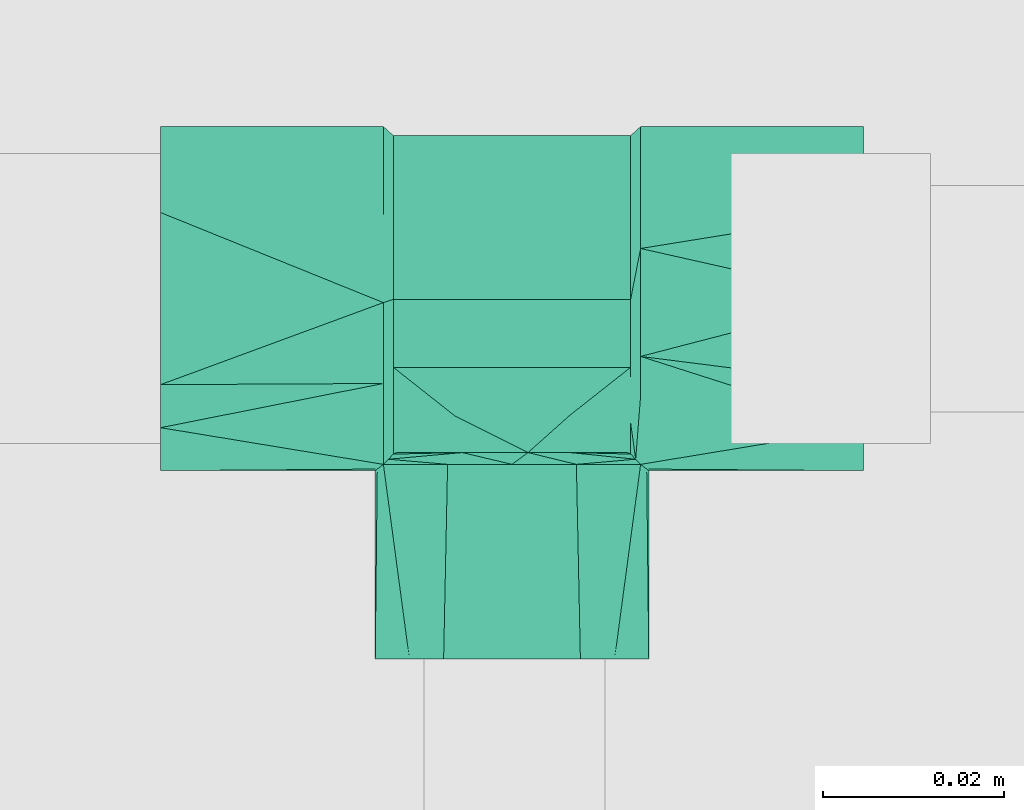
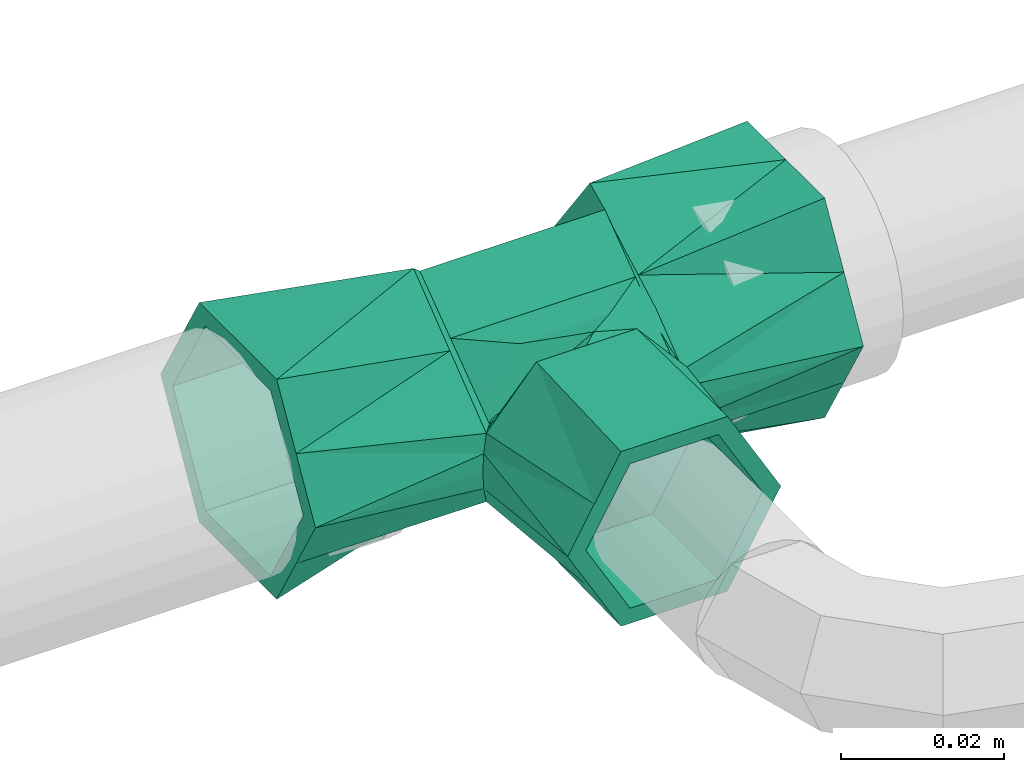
# One storey, part 116 of 166: 1 flow fitting.
"""IFC2X3 building model written with IfcOpenShell, lengths in metres."""

from ifc_helpers import new_model, entity, si_unit, converted_unit, direction, frame, origin, place, context, subcontext, project, spatial, faceted_brep, source, transform, mapped, material, type_object, type_shapes, element, save


model = new_model("IFC2X3")

# Units and contexts
model_context = context("Model", 3, precision=1e-05, world=origin(), true_north=direction((6.123233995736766e-17, 1.0)))
body_context = subcontext(model_context, "Body", "Model", "MODEL_VIEW")
ifc_project = project(units=[si_unit("LENGTHUNIT", "METRE"), converted_unit("PLANEANGLEUNIT", "DEGREE", entity("IfcPlaneAngleMeasure", 0.017453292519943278), si_unit("PLANEANGLEUNIT", "RADIAN"), dimensions=[0, 0, 0, 0, 0, 0, 0]), si_unit("AREAUNIT", "SQUARE_METRE")], contexts=[model_context])

# Site, building, storey
site_placement = place(None, origin())
site = spatial("IfcSite", under=ifc_project, at=site_placement, Name="Default", CompositionType="ELEMENT")
building_placement = place(site_placement, origin())
building = spatial("IfcBuilding", under=site, at=building_placement, Name="CASA DE ACOLHIDA PARA IDOSOS", CompositionType="ELEMENT")
storey_placement = place(building_placement, frame((0.0, 0.0, -1.7499999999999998)))
storey = spatial("IfcBuildingStorey", under=building, at=storey_placement, Name="IMPLANTAÇÃO DRENAGEM", CompositionType="ELEMENT", Elevation=-1.7499999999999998)

# Flow fitting
ifc_material = material(Name="PVC Branco")
pipe_fitting_type = type_object("IfcPipeFittingType", Name="AF_Roscavel_Te_Reducao:Standard", PredefinedType="NOTDEFINED", material=ifc_material)
shared_shape = source(origin(), body_context, "Body", "Brep", [
    faceted_brep([(-0.014199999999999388, 0.01563344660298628, -0.004544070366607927), (-0.014199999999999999, 0.018999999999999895, 0.0), (-0.0131, 0.01799999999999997, 0.0), (-0.014199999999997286, -0.01071379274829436, -0.009268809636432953), (-0.013099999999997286, -0.00862473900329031, -0.011707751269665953), (-0.01309999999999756, -0.012376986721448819, -0.008943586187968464), (-0.013099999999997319, -0.013728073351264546, -0.00794828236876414), (-0.01419999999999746, -0.0004246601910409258, -0.01490965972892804), (-0.01309999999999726, -0.004354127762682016, -0.014853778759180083), (-0.01419999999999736, -0.006383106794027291, -0.011643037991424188), (-0.013099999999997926, 0.004437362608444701, -0.013499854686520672), (-0.014199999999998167, 0.008900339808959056, -0.013632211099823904), (-0.013099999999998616, 0.008958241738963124, -0.008999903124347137), (-0.013099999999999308, 0.013479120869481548, -0.004499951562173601), (-0.01419999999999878, 0.01226689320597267, -0.009088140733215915), (-0.013653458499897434, -0.01773405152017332, -0.005279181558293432), (-0.013099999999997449, -0.014771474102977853, -0.007179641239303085), (-0.013099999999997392, -0.015968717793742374, -0.006297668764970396), (-0.013099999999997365, -0.016567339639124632, -0.005856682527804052), (-0.013099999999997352, -0.016866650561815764, -0.005636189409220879), (-0.013099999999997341, -0.017016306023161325, -0.005525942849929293), (-0.01309999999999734, -0.017165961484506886, -0.005415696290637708), (-0.014199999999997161, -0.018300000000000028, -0.005109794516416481), (-0.014199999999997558, 0.005533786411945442, -0.018176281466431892), (-0.013099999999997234, -8.35165220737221e-05, -0.017999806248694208), (-0.013099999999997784, -0.007588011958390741, -0.012471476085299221), (-0.013100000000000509, -0.0001668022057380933, 0.014208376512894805), (-0.014200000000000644, -0.004906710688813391, 0.015523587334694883), (-0.01310000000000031, -0.005833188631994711, 0.011277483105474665), (-0.014200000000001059, 0.014139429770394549, 0.0047487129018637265), (-0.013100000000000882, 0.011749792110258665, 0.00856963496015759), (-0.013100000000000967, 0.014874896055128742, 0.004284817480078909), (-0.01420000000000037, -0.009371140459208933, 0.012052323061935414), (-0.014200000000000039, -0.014747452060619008, 0.007872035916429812), (-0.013100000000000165, -0.009867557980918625, 0.009190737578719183), (-0.014200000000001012, 0.009278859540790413, 0.00949742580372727), (-0.014200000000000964, 0.004418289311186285, 0.014246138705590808), (-0.01310000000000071, 0.0054995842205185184, 0.01713926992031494), (-0.013100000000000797, 0.008624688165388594, 0.012854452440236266), (-0.013653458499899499, -0.017734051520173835, 0.005279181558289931), (-0.014200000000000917, -0.0004422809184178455, 0.018994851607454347), (-0.014199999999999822, -0.01830000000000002, 0.005109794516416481), (-0.013099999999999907, -0.01716596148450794, 0.0054156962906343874), (-0.013099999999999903, -0.01700710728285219, 0.005497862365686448), (-0.013099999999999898, -0.016848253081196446, 0.0055800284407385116), (-0.013099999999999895, -0.016530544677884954, 0.0057443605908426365), (-0.01309999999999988, -0.015895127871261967, 0.006073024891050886), (-0.01309999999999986, -0.014624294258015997, 0.006730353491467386), (-0.013099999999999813, -0.012082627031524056, 0.008045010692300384), (-0.013099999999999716, 0.010989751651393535, 0.009611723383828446), (-0.013099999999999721, -0.006999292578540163, 0.010674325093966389), (0.00953576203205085, -0.014962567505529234, 0.009221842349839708), (0.01113423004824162, -0.01598128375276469, 0.007568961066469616), (0.013100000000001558, -0.014624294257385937, 0.006730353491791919), (0.013100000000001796, -0.006999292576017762, 0.010674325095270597), (0.013100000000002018, -0.005833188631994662, 0.011277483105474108), (0.013100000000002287, -0.00016680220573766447, 0.01420837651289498), (0.013100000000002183, 0.005499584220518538, 0.017139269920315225), (0.0127326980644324, -0.017000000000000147, 0.005916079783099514), (0.012919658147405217, -0.017084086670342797, 0.005668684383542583), (0.01310000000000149, -0.01684825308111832, 0.0055800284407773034), (0.013100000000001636, -0.012082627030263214, 0.00804501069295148), (0.006338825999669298, -0.01292513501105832, 0.012527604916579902), (0.007625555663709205, -0.013745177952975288, 0.011197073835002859), (0.008912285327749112, -0.014565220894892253, 0.009866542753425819), (-0.011133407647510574, -0.015980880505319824, 0.007569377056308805), (-0.01082226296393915, -0.015782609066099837, 0.007891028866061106), (-0.009534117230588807, -0.014961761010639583, 0.009222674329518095), (-0.008911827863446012, -0.014565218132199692, 0.00986597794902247), (-0.006335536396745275, -0.0129235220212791, 0.012529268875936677), (-0.012977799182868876, -0.017110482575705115, 0.005587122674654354), (-0.012919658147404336, -0.017084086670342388, 0.005668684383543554), (0.013100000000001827, -0.00986755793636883, 0.00919073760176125), (-0.01273269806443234, -0.017000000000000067, 0.005916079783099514), (-0.011933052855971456, -0.016490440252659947, 0.00674272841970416), (0.0131000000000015, -0.01653054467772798, 0.005744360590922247), (0.011933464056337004, -0.016490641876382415, 0.006742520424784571), (0.013100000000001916, 0.008624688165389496, 0.012854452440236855), (0.013100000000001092, 0.011749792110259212, 0.00856963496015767), (0.013100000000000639, 0.014874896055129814, 0.0042848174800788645), (0.0131, 0.017999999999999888, 0.0), (0.012977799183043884, -0.01711048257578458, 0.005587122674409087), (0.01310000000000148, -0.017165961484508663, 0.005415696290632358), (0.013100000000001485, -0.017007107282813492, 0.005497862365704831), (0.01310000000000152, -0.0158951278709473, 0.006073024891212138), (0.01309999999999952, 0.012176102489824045, -0.005796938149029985), (0.013099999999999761, 0.008958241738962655, -0.008999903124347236), (0.013099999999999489, 0.006352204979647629, -0.011593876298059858), (0.013099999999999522, -8.351652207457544e-05, -0.01799980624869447), (-0.01291965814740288, -0.017084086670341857, -0.005668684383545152), (-0.012977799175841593, -0.017110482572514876, -0.005587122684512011), (0.013099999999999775, -0.007588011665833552, -0.012471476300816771), (0.0063388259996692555, -0.012925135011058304, -0.012527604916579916), (-0.006335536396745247, -0.01292352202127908, -0.012529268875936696), (0.013099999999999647, -0.005186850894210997, -0.014240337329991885), (-0.01273269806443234, -0.017000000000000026, -0.005916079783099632), (-0.011933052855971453, -0.01649044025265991, -0.006742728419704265), (0.009535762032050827, -0.014962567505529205, -0.009221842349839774), (0.013099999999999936, -0.012376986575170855, -0.008943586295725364), (0.013100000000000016, -0.014771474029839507, -0.007179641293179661), (0.013100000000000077, -0.016567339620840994, -0.005856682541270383), (0.0127326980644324, -0.017000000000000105, -0.005916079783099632), (0.011933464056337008, -0.01649064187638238, -0.006742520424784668), (0.008912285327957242, -0.01456522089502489, -0.009866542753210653), (0.013099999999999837, -0.010290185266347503, -0.010480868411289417), (0.012977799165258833, -0.017110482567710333, -0.005587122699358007), (0.012919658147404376, -0.017084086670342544, -0.005668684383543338), (0.013100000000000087, -0.016866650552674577, -0.005636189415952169), (0.01310000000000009, -0.017016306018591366, -0.005525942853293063), (0.013100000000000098, -0.01716596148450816, -0.0054156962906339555), (0.011134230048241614, -0.015981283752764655, -0.007568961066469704), (0.010822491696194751, -0.01578261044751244, -0.00789131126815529), (-0.007623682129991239, -0.01374437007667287, -0.011197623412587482), (-0.008911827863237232, -0.01456521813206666, -0.00986597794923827), (-0.009534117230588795, -0.014961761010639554, -0.009222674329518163), (-0.011133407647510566, -0.01598088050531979, -0.007569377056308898), (0.013100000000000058, -0.01596871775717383, -0.006297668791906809), (0.014200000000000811, 0.01226689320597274, 0.009088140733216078), (0.014200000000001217, 0.008900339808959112, 0.013632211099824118), (0.014200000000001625, 0.005533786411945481, 0.018176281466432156), (0.014200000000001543, -0.00312758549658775, 0.013427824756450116), (0.014200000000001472, -0.010713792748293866, 0.009268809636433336), (0.013653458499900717, -0.017734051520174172, 0.005279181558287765), (0.014200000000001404, -0.01829999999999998, 0.005109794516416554), (0.014199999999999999, 0.019, 0.0), (0.014200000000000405, 0.01563344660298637, 0.004544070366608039), (0.014200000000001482, -0.0063831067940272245, 0.011643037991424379), (0.014199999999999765, -0.00044228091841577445, -0.018994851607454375), (0.014199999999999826, -0.004906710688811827, -0.015523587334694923), (0.01419999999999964, 0.009278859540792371, -0.009497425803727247), (0.014199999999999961, -0.0147474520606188, -0.007872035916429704), (0.01420000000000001, -0.018299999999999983, -0.005109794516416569), (0.013653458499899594, -0.017734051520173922, -0.00527918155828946), (0.014199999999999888, -0.009371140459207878, -0.01205232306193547), (0.014199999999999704, 0.0044182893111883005, -0.01424613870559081), (0.014199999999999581, 0.014139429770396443, -0.004748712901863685), (-0.0388000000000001, -0.009500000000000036, -0.016454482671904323), (-0.0388000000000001, -0.016, 0.0), (-0.03879999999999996, -0.011857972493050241, -0.007174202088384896), (-0.0388000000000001, -0.014250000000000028, -0.008227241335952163), (-0.0388000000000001, -0.008000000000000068, -0.01385640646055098), (-0.0388000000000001, 0.0, -0.013856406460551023), (-0.0388000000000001, 0.007999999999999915, -0.013856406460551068), (-0.0388000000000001, 0.0, -0.01645448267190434), (-0.0388000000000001, -0.01900000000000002, 0.0), (-0.0388000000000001, -0.012000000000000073, 0.006928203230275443), (-0.0388000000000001, -0.008000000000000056, 0.013856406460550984), (-0.0388000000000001, -0.014249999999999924, 0.008227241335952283), (-0.0388000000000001, -0.00949999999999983, 0.01645448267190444), (-0.0388000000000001, 0.0, 0.013856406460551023), (-0.0388000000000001, 0.007999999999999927, 0.01385640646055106), (-0.0388000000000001, 0.0, 0.01645448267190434), (-0.0388000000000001, 0.009500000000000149, 0.016454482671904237), (-0.0388000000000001, 0.01549204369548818, 0.006075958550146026), (-0.0388000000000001, 0.01899999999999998, 0.0), (-0.03879999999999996, 0.01185797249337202, 0.007174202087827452), (-0.0388000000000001, 0.016, 0.0), (-0.0388000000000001, 0.014249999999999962, -0.0082272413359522), (-0.0388000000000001, 0.009499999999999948, -0.016454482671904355), (-0.0388000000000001, 0.011999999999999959, -0.006928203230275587), (-0.014872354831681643, -0.018819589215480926, 0.0026120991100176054), (-0.015099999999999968, -0.01900000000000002, 0.0), (0.0388000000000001, -0.019, 0.0), (0.014872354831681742, -0.018819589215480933, 0.0026120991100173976), (0.015100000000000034, -0.019, 0.0), (0.0388000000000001, 0.014249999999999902, 0.008227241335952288), (0.0388000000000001, 0.019, 0.0), (-0.014872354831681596, -0.018819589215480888, -0.0026120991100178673), (0.014872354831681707, -0.018819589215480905, -0.0026120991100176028), (0.0388000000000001, 0.015492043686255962, -0.006075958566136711), (0.0388000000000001, 0.009500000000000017, -0.016454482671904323), (0.0388000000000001, 0.015999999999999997, 0.0), (0.038800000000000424, 0.011857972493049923, -0.007174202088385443), (0.0388000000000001, 0.008000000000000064, -0.01385640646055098), (0.0388000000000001, 0.0, -0.013856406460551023), (0.0388000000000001, -0.007999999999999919, -0.013856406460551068), (0.0388000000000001, 0.0, -0.01645448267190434), (0.0388000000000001, 0.012000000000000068, 0.006928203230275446), (0.0388000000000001, 0.00800000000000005, 0.013856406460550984), (0.0388000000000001, 0.00949999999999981, 0.01645448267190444), (0.0388000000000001, 0.0, 0.013856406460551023), (0.0388000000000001, -0.00799999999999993, 0.01385640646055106), (0.0388000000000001, 0.0, 0.01645448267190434), (0.0388000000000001, -0.00950000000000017, 0.016454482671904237), (0.0388000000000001, -0.014250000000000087, 0.008227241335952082), (0.038800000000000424, -0.01185797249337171, 0.007174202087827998), (0.0388000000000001, -0.016000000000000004, 0.0), (0.0388000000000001, -0.014249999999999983, -0.008227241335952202), (0.0388000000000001, -0.009499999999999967, -0.016454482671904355), (0.0388000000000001, -0.011999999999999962, -0.006928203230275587), (-0.02269999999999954, -0.016, 0.0), (-0.02269999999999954, -0.01185797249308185, 0.0071742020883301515), (-0.02269999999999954, -0.008000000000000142, 0.013856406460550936), (-0.02269999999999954, 0.0, 0.013856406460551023), (-0.02269999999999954, 0.007999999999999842, 0.01385640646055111), (-0.02269999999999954, 0.01199999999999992, 0.006928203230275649), (-0.02269999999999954, 0.016, 0.0), (-0.02269999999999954, 0.011857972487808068, -0.007174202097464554), (-0.02269999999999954, 0.008000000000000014, -0.01385640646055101), (-0.022699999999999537, 0.0, -0.01385640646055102), (-0.02269999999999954, -0.007999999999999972, -0.013856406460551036), (-0.02269999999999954, -0.011999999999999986, -0.006928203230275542), (0.022700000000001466, -0.016000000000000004, 0.0), (0.022700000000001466, -0.011999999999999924, 0.006928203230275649), (0.022700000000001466, -0.007999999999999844, 0.01385640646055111), (0.022700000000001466, 0.0, 0.013856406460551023), (0.022700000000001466, 0.00800000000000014, 0.013856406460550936), (0.022700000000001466, 0.011857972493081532, 0.007174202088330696), (0.022700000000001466, 0.015999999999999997, 0.0), (0.022700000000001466, 0.011999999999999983, -0.006928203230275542), (0.022700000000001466, 0.00799999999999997, -0.013856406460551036), (0.022700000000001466, 0.0, -0.013856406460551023), (0.022700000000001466, -0.008000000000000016, -0.01385640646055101), (0.022700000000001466, -0.011857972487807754, -0.007174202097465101), (0.01250000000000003, -0.02369999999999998, 0.0), (0.006250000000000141, -0.023699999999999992, 0.010825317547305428), (-0.006249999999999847, -0.02370000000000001, 0.010825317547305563), (-0.012499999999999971, -0.023700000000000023, 0.0), (-0.006249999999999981, -0.02370000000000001, -0.010825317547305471), (0.006250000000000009, -0.023699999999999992, -0.01082531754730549), (0.012500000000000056, -0.03979999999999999, 0.0), (0.006250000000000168, -0.039799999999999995, 0.010825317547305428), (-0.00624999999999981, -0.039800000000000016, 0.01082531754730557), (-0.012499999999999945, -0.03980000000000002, 0.0), (-0.006249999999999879, -0.039800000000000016, -0.010825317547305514), (0.006250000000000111, -0.039799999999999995, -0.010825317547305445), (-0.0017679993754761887, -0.01700000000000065, -0.013928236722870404), (-0.006407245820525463, -0.017000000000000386, -0.010538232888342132), (0.009386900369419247, -0.01700000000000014, -0.007764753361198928), (0.006041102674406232, -0.017000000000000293, -0.009613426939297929), (0.005482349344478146, -0.017000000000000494, -0.009922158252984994), (0.0017662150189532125, -0.016999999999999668, 0.013928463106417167), (0.006407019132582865, -0.016999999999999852, 0.010537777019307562), (-0.009386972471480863, -0.01699999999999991, 0.007764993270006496), (-0.00604124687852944, -0.016999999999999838, 0.009613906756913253), (-0.005483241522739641, -0.01699999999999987, 0.009922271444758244), (1.2383427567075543e-06, -0.018300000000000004, 0.013321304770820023), (0.007111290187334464, -0.018299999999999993, 0.013320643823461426), (-0.007108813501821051, -0.018300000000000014, 0.013321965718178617), (1.2383427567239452e-06, -0.01830000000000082, -0.013321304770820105), (-0.007108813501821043, -0.018300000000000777, -0.013321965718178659), (0.007111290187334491, -0.018300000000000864, -0.01332064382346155), (0.007550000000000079, -0.039799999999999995, -0.013076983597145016), (0.011325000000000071, -0.03979999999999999, -0.00653849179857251), (0.0, -0.0398, -0.013076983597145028), (0.015100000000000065, -0.03979999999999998, 0.0), (0.011324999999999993, -0.03979999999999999, 0.006538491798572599), (0.007549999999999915, -0.039799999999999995, 0.01307698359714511), (0.0, -0.0398, 0.013076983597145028), (-0.007550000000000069, -0.039800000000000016, 0.013076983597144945), (-0.011325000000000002, -0.03980000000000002, 0.006538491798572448), (-0.015099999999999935, -0.03980000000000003, 0.0), (-0.011324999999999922, -0.03980000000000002, -0.006538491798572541), (-0.007549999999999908, -0.039800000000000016, -0.01307698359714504)], [[[0, 1, 2]], [[3, 4, 5, 6]], [[7, 8, 9]], [[10, 11, 12]], [[13, 14, 0]], [[15, 6, 16, 17, 18, 19, 20, 21]], [[4, 3, 9]], [[3, 6, 15]], [[0, 2, 13]], [[15, 22, 3]], [[23, 10, 24]], [[12, 14, 13]], [[8, 7, 24]], [[9, 8, 25, 4]], [[11, 10, 23]], [[11, 14, 12]], [[7, 23, 24]], [[26, 27, 28]], [[29, 30, 31]], [[31, 1, 29]], [[31, 2, 1]], [[27, 32, 28]], [[33, 34, 32]], [[29, 35, 30]], [[36, 37, 38]], [[34, 33, 39]], [[40, 37, 36]], [[33, 41, 39]], [[39, 42, 43, 44, 45, 46, 47, 48, 34]], [[35, 38, 49, 30]], [[26, 40, 27]], [[26, 37, 40]], [[36, 38, 35]], [[32, 34, 50, 28]], [[51, 52, 53]], [[50, 54, 55, 56, 57, 37, 26, 28]], [[58, 59, 60]], [[61, 62, 63, 64, 51]], [[47, 65, 66, 67]], [[48, 67, 68, 69]], [[69, 50, 34, 48]], [[70, 71, 44, 43, 42]], [[62, 61, 72, 54]], [[45, 73, 74]], [[50, 69, 54]], [[58, 75, 76]], [[73, 44, 71]], [[2, 31, 30, 49, 38, 37, 57, 77, 78, 79, 80]], [[45, 44, 73]], [[62, 54, 69]], [[60, 75, 58]], [[67, 48, 47]], [[59, 81, 82, 83, 60]], [[84, 76, 75]], [[65, 47, 46]], [[61, 51, 53]], [[46, 74, 65]], [[53, 52, 84]], [[45, 74, 46]], [[84, 52, 76]], [[12, 13, 2, 80, 85, 86, 87, 88, 24, 10]], [[89, 90, 21, 20, 19]], [[91, 92, 93]], [[93, 25, 91]], [[24, 88, 94, 91, 25, 8]], [[95, 18, 96]], [[17, 96, 18]], [[97, 98, 99]], [[100, 101, 102]], [[98, 97, 103, 92]], [[92, 91, 104, 98]], [[105, 106, 107, 108, 109]], [[99, 110, 111, 97]], [[5, 93, 112, 113, 114]], [[114, 115, 16]], [[95, 89, 19]], [[19, 18, 95]], [[93, 5, 4, 25]], [[101, 107, 106]], [[100, 107, 101]], [[110, 99, 116]], [[114, 16, 6, 5]], [[116, 102, 110]], [[16, 115, 17]], [[100, 102, 116]], [[17, 115, 96]], [[117, 77, 118]], [[56, 119, 57]], [[57, 118, 77]], [[119, 118, 57]], [[119, 56, 120]], [[121, 55, 54, 72]], [[122, 72, 61, 53, 84, 75, 60, 83, 82]], [[121, 122, 123]], [[124, 80, 79]], [[122, 121, 72]], [[125, 79, 78]], [[78, 117, 125]], [[56, 55, 120]], [[55, 121, 126, 120]], [[124, 79, 125]], [[77, 117, 78]], [[127, 128, 88]], [[129, 87, 86, 85]], [[130, 131, 132]], [[130, 104, 133]], [[88, 134, 127]], [[80, 135, 85]], [[132, 109, 108, 107, 100, 116, 99, 98, 104]], [[133, 104, 91, 94]], [[134, 88, 87]], [[94, 128, 133]], [[87, 129, 134]], [[104, 130, 132]], [[88, 128, 94]], [[135, 80, 124]], [[135, 129, 85]], [[136, 137, 138]], [[137, 136, 139]], [[136, 138, 140]], [[136, 140, 141]], [[136, 141, 142]], [[142, 143, 136]], [[137, 139, 144]], [[144, 145, 137]], [[144, 146, 145]], [[146, 144, 147]], [[146, 147, 148]], [[148, 149, 146]], [[148, 150, 149]], [[150, 148, 151]], [[150, 151, 152]], [[150, 152, 153]], [[150, 153, 154]], [[154, 155, 150]], [[154, 156, 155]], [[156, 154, 157]], [[156, 157, 158]], [[158, 142, 159]], [[142, 158, 143]], [[158, 159, 156]], [[35, 153, 152]], [[40, 152, 151, 148]], [[153, 35, 29, 1]], [[147, 32, 148]], [[152, 40, 36, 35]], [[160, 144, 161]], [[162, 163, 164]], [[1, 154, 153]], [[165, 166, 124]], [[160, 41, 147]], [[144, 160, 147]], [[148, 32, 27, 40]], [[147, 41, 33, 32]], [[139, 9, 3, 22]], [[136, 9, 139]], [[167, 139, 22]], [[144, 167, 161]], [[168, 162, 164]], [[167, 144, 139]], [[143, 158, 23]], [[143, 9, 136]], [[157, 154, 1]], [[124, 166, 169]], [[157, 1, 0, 14]], [[158, 14, 11, 23]], [[143, 23, 7, 9]], [[14, 158, 157]], [[170, 171, 172]], [[171, 170, 169]], [[170, 172, 173]], [[170, 173, 174]], [[170, 174, 175]], [[175, 176, 170]], [[171, 169, 166]], [[166, 177, 171]], [[166, 178, 177]], [[178, 166, 165]], [[178, 165, 179]], [[179, 180, 178]], [[179, 181, 180]], [[181, 179, 182]], [[181, 182, 183]], [[181, 183, 184]], [[181, 184, 162]], [[162, 185, 181]], [[162, 186, 185]], [[186, 162, 187]], [[186, 187, 188]], [[188, 175, 189]], [[175, 188, 176]], [[188, 189, 186]], [[184, 126, 121, 123]], [[183, 126, 184]], [[163, 184, 123]], [[163, 162, 184]], [[182, 179, 119]], [[182, 126, 183]], [[165, 124, 125, 117]], [[179, 117, 118, 119]], [[182, 119, 120, 126]], [[117, 179, 165]], [[129, 169, 170]], [[127, 170, 176, 188]], [[169, 129, 135, 124]], [[187, 133, 188]], [[170, 127, 134, 129]], [[168, 131, 187]], [[162, 168, 187]], [[188, 133, 128, 127]], [[187, 131, 130, 133]], [[190, 191, 192, 193, 194, 195, 196, 197, 198, 199, 200, 201]], [[192, 191, 190, 137, 145, 146]], [[186, 202, 203, 204, 181, 185]], [[194, 193, 192, 146, 149, 150]], [[204, 205, 206, 178, 180, 181]], [[156, 196, 195, 194, 150, 155]], [[206, 207, 208, 171, 177, 178]], [[198, 197, 196, 156, 159, 142]], [[171, 208, 209, 210, 173, 172]], [[200, 199, 198, 142, 141, 140]], [[210, 211, 212, 175, 174, 173]], [[137, 190, 201, 200, 140, 138]], [[212, 213, 202, 186, 189, 175]], [[208, 207, 206, 205, 204, 203, 202, 213, 212, 211, 210, 209]], [[214, 215, 216, 217, 218, 219]], [[220, 221, 215, 214]], [[221, 222, 216, 215]], [[222, 223, 217, 216]], [[223, 224, 218, 217]], [[224, 225, 219, 218]], [[225, 220, 214, 219]], [[226, 227, 95, 96, 115, 114, 113, 112, 93]], [[92, 103, 97, 111, 110, 102, 101, 228, 229, 230, 226]], [[92, 226, 93]], [[231, 232, 58, 76, 52, 51, 64, 63, 62]], [[69, 68, 67, 66, 65, 74, 73, 233, 234, 235, 231]], [[69, 231, 62]], [[42, 39, 235]], [[235, 236, 231]], [[232, 82, 81, 59]], [[123, 122, 237]], [[236, 237, 231]], [[82, 232, 122]], [[237, 122, 232]], [[71, 235, 234, 233, 73]], [[235, 71, 70, 42]], [[39, 238, 235]], [[236, 235, 238]], [[39, 41, 238]], [[59, 58, 232]], [[237, 232, 231]], [[109, 132, 230]], [[230, 239, 226]], [[227, 21, 90, 89]], [[22, 15, 240]], [[239, 240, 226]], [[21, 227, 15]], [[240, 15, 227]], [[106, 230, 229, 228, 101]], [[230, 106, 105, 109]], [[132, 241, 230]], [[239, 230, 241]], [[132, 131, 241]], [[89, 95, 227]], [[240, 227, 226]], [[242, 220, 225]], [[220, 242, 243]], [[242, 225, 224]], [[224, 244, 242]], [[220, 243, 245]], [[221, 220, 245]], [[221, 245, 246]], [[221, 246, 247]], [[221, 247, 222]], [[222, 247, 248]], [[222, 248, 249]], [[222, 249, 250]], [[222, 250, 251]], [[251, 223, 222]], [[223, 251, 252]], [[223, 252, 253]], [[253, 224, 223]], [[224, 253, 244]], [[251, 160, 161]], [[249, 238, 250]], [[245, 164, 163]], [[238, 249, 248]], [[251, 250, 160]], [[250, 238, 41]], [[237, 248, 247]], [[245, 163, 246]], [[123, 246, 163]], [[237, 247, 246]], [[237, 246, 123]], [[160, 250, 41]], [[248, 237, 236, 238]], [[245, 168, 164]], [[242, 241, 243]], [[253, 240, 244]], [[251, 161, 167]], [[245, 243, 168]], [[243, 241, 131]], [[244, 240, 239, 241]], [[251, 167, 252]], [[22, 252, 167]], [[240, 253, 252]], [[240, 252, 22]], [[168, 243, 131]], [[242, 244, 241]]]),
])
type_shapes(pipe_fitting_type, [shared_shape])
flow_fitting_placement = place(storey_placement, frame((20.03905110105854, 9.654942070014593, -0.19999999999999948), z_axis=(0.0, 0.0, -1.0), x_axis=(-1.0, 0.0, 0.0)))
element("IfcFlowFitting", 1, at=flow_fitting_placement, inside=storey, type_object=pipe_fitting_type, material=ifc_material, Name="AF_Roscavel_Te_Reducao:Standard", ObjectType="AF_Roscavel_Te_Reducao:Standard", context=body_context, shape_type="MappedRepresentation", body=[
    mapped(shared_shape, transform((0.0, 0.0, 0.0), scale=1.0)),
])

save(model, "model.ifc")
